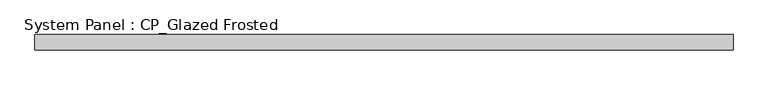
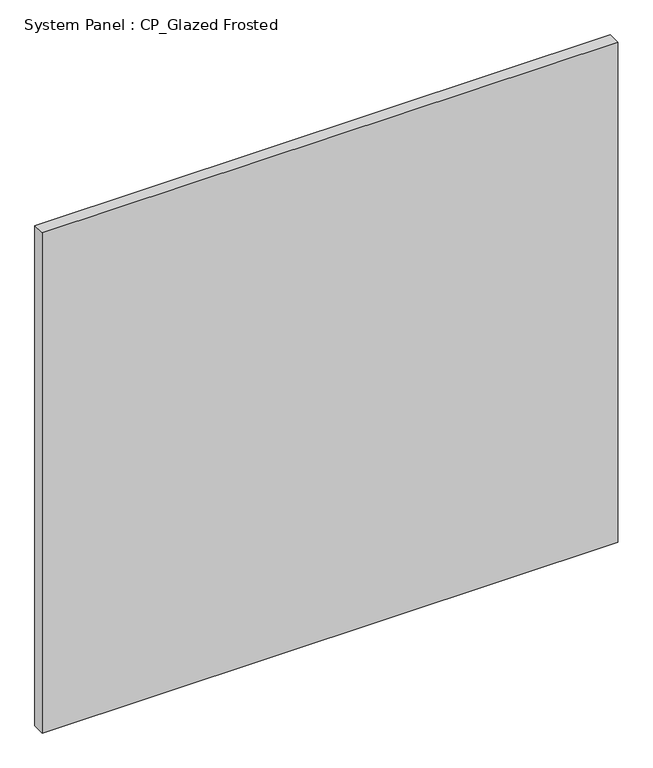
"""IFC4 building model written with IfcOpenShell, lengths in millimetres: plate geometry, System Panel : CP_Glazed Frosted."""

from ifc_helpers import new_model, si_unit, origin, origin_with_axes, place, context, project, spatial, polyline, outline, extrude, source, transform, mapped, element, save


def system_panel_cp_glazed_frosted_08d6da29(model_context):
    return source(origin(), model_context, "Body", "SweptSolid", [
        extrude(outline(polyline([(583.803125, 19.05), (-583.803125, 19.05), (-583.803125, 44.45), (583.803125, 44.45), (583.803125, 19.05)])), origin_with_axes(), (0.0, 0.0, 1.0), 1073.15),
    ])


if __name__ == "__main__":
    model = new_model("IFC4")
    model_context = context("Model", 3, world=origin())
    ifc_project = project(units=[si_unit("LENGTHUNIT", "METRE", prefix="MILLI")], contexts=[model_context])
    site = spatial("IfcSite", under=ifc_project)
    building = spatial("IfcBuilding", under=site)
    placement = place(None, origin())
    system_panel_cp_glazed_frosted_shape = system_panel_cp_glazed_frosted_08d6da29(model_context)
    element("IfcPlate", 1, ObjectType="System Panel : CP_Glazed Frosted", at=placement, inside=building, context=model_context, shape_type="MappedRepresentation", body=[
        mapped(system_panel_cp_glazed_frosted_shape, transform((0.0, 0.0, 0.0), x_axis=(1.0, 0.0, 0.0), y_axis=(0.0, 1.0, 0.0), z_axis=(0.0, 0.0, 1.0))),
    ])
    save(model, "model.ifc")
